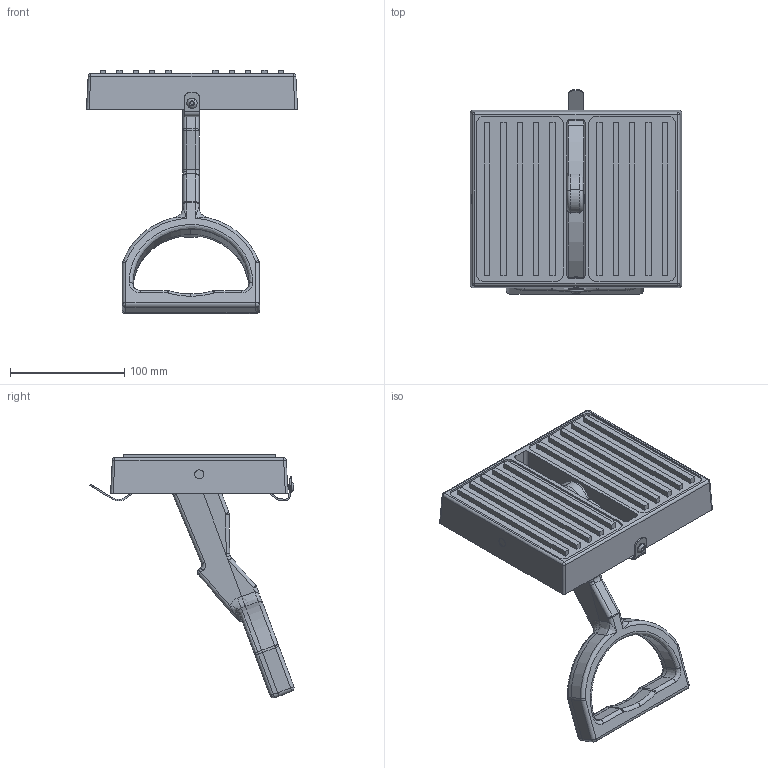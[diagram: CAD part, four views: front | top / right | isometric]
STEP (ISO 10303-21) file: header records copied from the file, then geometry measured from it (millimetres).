
FILE_DESCRIPTION (( 'STEP AP203' ), '1' );
FILE_NAME ('B600.STEP', '2018-10-26T17:56:33', ( '' ), ( '' ), 'SwSTEP 2.0', 'SolidWorks 2015', '' );
FILE_SCHEMA (( 'CONFIG_CONTROL_DESIGN' ));
Length unit declared in the file: inch
Products named in the file (1): B600
Bounding box: 185.17 x 178.9 x 213.81 mm (x, y, z)
Volume: 585179 mm3; surface area: 286829.5 mm2
Topology: 17 solids, 17 shells, 1668 faces, 4278 edges, 2776 vertices
Faces by surface type: plane 962, bspline 483, cylinder 139, cone 78, sphere 4, torus 2
Entity records: 78620 total; most frequent: CARTESIAN_POINT 41220, ORIENTED_EDGE 8548, DIRECTION 5999, EDGE_CURVE 4274, LINE 2965, VECTOR 2965, VERTEX_POINT 2776, EDGE_LOOP 1860
